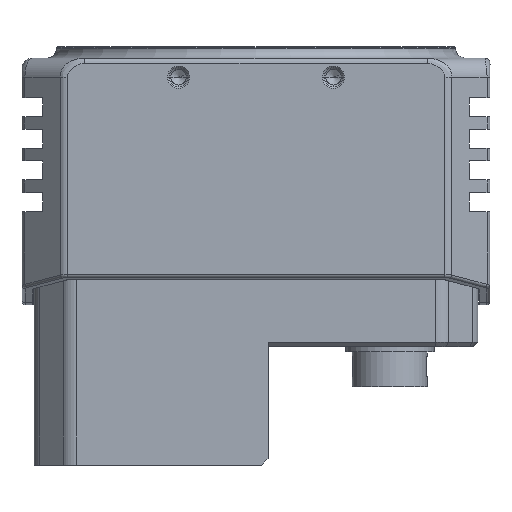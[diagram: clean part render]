
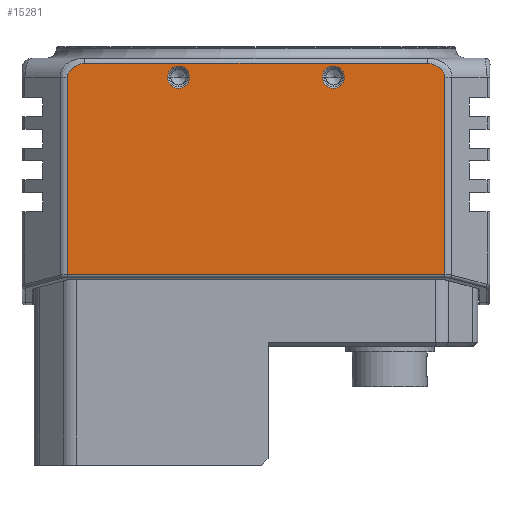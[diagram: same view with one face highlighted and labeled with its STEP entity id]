
A CAD part, left-side view. The second image highlights one B-rep face of the part: STEP entity #15281.
In plain terms, the highlighted planar face has unit normal (-1, 0, 0).
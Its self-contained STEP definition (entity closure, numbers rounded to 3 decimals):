
#1610=DIRECTION('',(0.,-1.,0.));
#1611=VECTOR('',#1610,59.675);
#1612=CARTESIAN_POINT('',(-37.,29.837,
-22.695));
#1613=LINE('',#1612,#1611);
#1884=DIRECTION('',(0.,0.,1.));
#1885=VECTOR('',#1884,31.195);
#1886=CARTESIAN_POINT('',(-37.,-29.837,
-22.695));
#1887=LINE('',#1886,#1885);
#1892=CARTESIAN_POINT('',(-37.,29.837,8.5));
#1893=CARTESIAN_POINT('',(-37.,29.851,8.567));
#1894=CARTESIAN_POINT('',(-37.,29.837,8.734));
#1895=CARTESIAN_POINT('',(-37.,29.689,9.13));
#1896=CARTESIAN_POINT('',(-37.,29.437,9.527));
#1897=CARTESIAN_POINT('',(-37.,29.224,9.736));
#1898=CARTESIAN_POINT('',(-37.,28.791,10.113));
#1899=CARTESIAN_POINT('',(-37.,28.221,10.438));
#1900=CARTESIAN_POINT('',(-37.,27.625,10.651));
#1901=CARTESIAN_POINT('',(-37.,27.245,10.699));
#1902=CARTESIAN_POINT('',(-37.,27.059,10.7));
#1904=CARTESIAN_POINT('',(-37.,-27.063,
10.702));
#1905=CARTESIAN_POINT('',(-37.,-27.27,
10.695));
#1906=CARTESIAN_POINT('',(-37.,-27.686,
10.636));
#1907=CARTESIAN_POINT('',(-37.,-28.251,
10.423));
#1908=CARTESIAN_POINT('',(-37.,-28.829,
10.086));
#1909=CARTESIAN_POINT('',(-37.,-29.257,
9.704));
#1910=CARTESIAN_POINT('',(-37.,-29.45,
9.507));
#1911=CARTESIAN_POINT('',(-37.,-29.674,
9.157));
#1912=CARTESIAN_POINT('',(-37.,-29.836,
8.748));
#1913=CARTESIAN_POINT('',(-37.,-29.85,
8.574));
#1914=CARTESIAN_POINT('',(-37.,-29.837,
8.5));
#1916=CARTESIAN_POINT('',(-37.,12.25,8.5));
#1917=DIRECTION('',(-1.,0.,0.));
#1918=DIRECTION('',(0.,-1.,0.));
#1919=AXIS2_PLACEMENT_3D('',#1916,#1917,#1918);
#1921=CARTESIAN_POINT('',(-37.,12.25,8.5));
#1922=DIRECTION('',(-1.,0.,0.));
#1923=DIRECTION('',(0.,0.,1.));
#1924=AXIS2_PLACEMENT_3D('',#1921,#1922,#1923);
#1926=CARTESIAN_POINT('',(-37.,12.25,8.5));
#1927=DIRECTION('',(-1.,0.,0.));
#1928=DIRECTION('',(0.,1.,0.));
#1929=AXIS2_PLACEMENT_3D('',#1926,#1927,#1928);
#1931=CARTESIAN_POINT('',(-37.,12.25,8.5));
#1932=DIRECTION('',(-1.,0.,0.));
#1933=DIRECTION('',(0.,0.,-1.));
#1934=AXIS2_PLACEMENT_3D('',#1931,#1932,#1933);
#1936=CARTESIAN_POINT('',(-37.,-12.25,8.5));
#1937=DIRECTION('',(-1.,0.,0.));
#1938=DIRECTION('',(0.,-1.,0.));
#1939=AXIS2_PLACEMENT_3D('',#1936,#1937,#1938);
#1941=CARTESIAN_POINT('',(-37.,-12.25,8.5));
#1942=DIRECTION('',(-1.,0.,0.));
#1943=DIRECTION('',(0.,0.,1.));
#1944=AXIS2_PLACEMENT_3D('',#1941,#1942,#1943);
#1946=CARTESIAN_POINT('',(-37.,-12.25,8.5));
#1947=DIRECTION('',(-1.,0.,0.));
#1948=DIRECTION('',(0.,1.,0.));
#1949=AXIS2_PLACEMENT_3D('',#1946,#1947,#1948);
#1951=CARTESIAN_POINT('',(-37.,-12.25,8.5));
#1952=DIRECTION('',(-1.,0.,0.));
#1953=DIRECTION('',(0.,0.,-1.));
#1954=AXIS2_PLACEMENT_3D('',#1951,#1952,#1953);
#1960=DIRECTION('',(0.,0.,-1.));
#1961=VECTOR('',#1960,31.195);
#1962=CARTESIAN_POINT('',(-37.,29.837,8.5));
#1963=LINE('',#1962,#1961);
#3016=CARTESIAN_POINT('',(-37.,-27.063,
10.702));
#3018=CARTESIAN_POINT('',(-37.,-27.059,10.703));
#3019=CARTESIAN_POINT('',(-37.,-26.823,10.707));
#3020=CARTESIAN_POINT('',(-37.,-26.276,10.696));
#3021=CARTESIAN_POINT('',(-37.,-25.398,10.701));
#3022=CARTESIAN_POINT('',(-37.,-24.39,10.7));
#3023=CARTESIAN_POINT('',(-37.,-23.281,10.7));
#3024=CARTESIAN_POINT('',(-37.,-22.04,10.7));
#3025=CARTESIAN_POINT('',(-37.,-20.651,10.7));
#3026=CARTESIAN_POINT('',(-37.,-19.11,10.7));
#3027=CARTESIAN_POINT('',(-37.,-17.41,10.7));
#3028=CARTESIAN_POINT('',(-37.,-15.533,10.7));
#3029=CARTESIAN_POINT('',(-37.,-13.45,10.7));
#3030=CARTESIAN_POINT('',(-37.,-11.124,10.7));
#3031=CARTESIAN_POINT('',(-37.,-8.51,10.7));
#3032=CARTESIAN_POINT('',(-37.,-5.589,10.7));
#3033=CARTESIAN_POINT('',(-37.,-2.449,10.7));
#3034=CARTESIAN_POINT('',(-37.,0.73,10.7));
#3035=CARTESIAN_POINT('',(-37.,3.764,10.7));
#3036=CARTESIAN_POINT('',(-37.,6.579,10.7));
#3037=CARTESIAN_POINT('',(-37.,9.175,10.7));
#3038=CARTESIAN_POINT('',(-37.,11.57,10.7));
#3039=CARTESIAN_POINT('',(-37.,13.774,10.7));
#3040=CARTESIAN_POINT('',(-37.,15.796,10.7));
#3041=CARTESIAN_POINT('',(-37.,17.647,10.7));
#3042=CARTESIAN_POINT('',(-37.,19.338,10.7));
#3043=CARTESIAN_POINT('',(-37.,20.875,10.7));
#3044=CARTESIAN_POINT('',(-37.,22.26,10.7));
#3045=CARTESIAN_POINT('',(-37.,23.497,10.7));
#3046=CARTESIAN_POINT('',(-37.,24.606,10.7));
#3047=CARTESIAN_POINT('',(-37.,25.619,10.701));
#3048=CARTESIAN_POINT('',(-37.,26.425,10.698));
#3049=CARTESIAN_POINT('',(-37.,26.899,10.702));
#3050=CARTESIAN_POINT('',(-37.,27.057,10.701));
#3069=CARTESIAN_POINT('',(-37.,27.059,10.7));
#11740=CARTESIAN_POINT('',(-37.,-29.837,-22.695));
#11741=VERTEX_POINT('',#11740);
#11742=CARTESIAN_POINT('',(-37.,29.837,-22.695));
#11743=VERTEX_POINT('',#11742);
#11744=CARTESIAN_POINT('',(-37.,29.837,
8.5));
#11745=VERTEX_POINT('',#11744);
#11746=VERTEX_POINT('',#3069);
#11747=VERTEX_POINT('',#3016);
#11749=CARTESIAN_POINT('',(-37.,-29.837,
8.5));
#11750=VERTEX_POINT('',#11749);
#11855=CARTESIAN_POINT('',(-37.,12.25,10.25));
#11856=CARTESIAN_POINT('',(-37.,14.,8.5));
#11857=VERTEX_POINT('',#11855);
#11858=VERTEX_POINT('',#11856);
#11859=CARTESIAN_POINT('',(-37.,10.5,8.5));
#11860=VERTEX_POINT('',#11859);
#11861=CARTESIAN_POINT('',(-37.,12.25,6.75));
#11862=VERTEX_POINT('',#11861);
#11863=CARTESIAN_POINT('',(-37.,-12.25,10.25));
#11864=CARTESIAN_POINT('',(-37.,-10.5,8.5));
#11865=VERTEX_POINT('',#11863);
#11866=VERTEX_POINT('',#11864);
#11867=CARTESIAN_POINT('',(-37.,-14.,8.5));
#11868=VERTEX_POINT('',#11867);
#11869=CARTESIAN_POINT('',(-37.,-12.25,6.75));
#11870=VERTEX_POINT('',#11869);
#15244=CARTESIAN_POINT('',(-37.,0.,-5.997));
#15245=DIRECTION('',(1.,0.,0.));
#15246=DIRECTION('',(0.,-1.,0.));
#15247=AXIS2_PLACEMENT_3D('',#15244,#15245,#15246);
#15248=PLANE('',#15247);
#15249=ORIENTED_EDGE('',*,*,#14838,.F.);
#15251=ORIENTED_EDGE('',*,*,#15250,.F.);
#15253=ORIENTED_EDGE('',*,*,#15252,.T.);
#15255=ORIENTED_EDGE('',*,*,#15254,.F.);
#15257=ORIENTED_EDGE('',*,*,#15256,.T.);
#15258=ORIENTED_EDGE('',*,*,#15236,.F.);
#15259=EDGE_LOOP('',(#15249,#15251,#15253,#15255,#15257,#15258));
#15260=FACE_OUTER_BOUND('',#15259,.F.);
#15262=ORIENTED_EDGE('',*,*,#15261,.T.);
#15264=ORIENTED_EDGE('',*,*,#15263,.T.);
#15266=ORIENTED_EDGE('',*,*,#15265,.T.);
#15268=ORIENTED_EDGE('',*,*,#15267,.T.);
#15269=EDGE_LOOP('',(#15262,#15264,#15266,#15268));
#15270=FACE_BOUND('',#15269,.F.);
#15272=ORIENTED_EDGE('',*,*,#15271,.T.);
#15274=ORIENTED_EDGE('',*,*,#15273,.T.);
#15276=ORIENTED_EDGE('',*,*,#15275,.T.);
#15278=ORIENTED_EDGE('',*,*,#15277,.T.);
#15279=EDGE_LOOP('',(#15272,#15274,#15276,#15278));
#15280=FACE_BOUND('',#15279,.F.);
#15281=ADVANCED_FACE('',(#15260,#15270,#15280),#15248,.F.);
#1903=B_SPLINE_CURVE_WITH_KNOTS('',3,(#1892,#1893,#1894,#1895,#1896,#1897,#1898,
#1899,#1900,#1901,#1902),.UNSPECIFIED.,.F.,.F.,(4,1,1,1,1,1,1,1,4),(0.,
0.125,0.25,0.375,0.5,0.625,0.75,0.875,1.),.UNSPECIFIED.);
#1915=B_SPLINE_CURVE_WITH_KNOTS('',3,(#1904,#1905,#1906,#1907,#1908,#1909,#1910,
#1911,#1912,#1913,#1914),.UNSPECIFIED.,.F.,.F.,(4,1,1,1,1,1,1,1,4),(0.,
0.125,0.25,0.375,0.5,0.625,0.75,0.875,1.),.UNSPECIFIED.);
#1920=CIRCLE('',#1919,1.75);
#1925=CIRCLE('',#1924,1.75);
#1930=CIRCLE('',#1929,1.75);
#1935=CIRCLE('',#1934,1.75);
#1940=CIRCLE('',#1939,1.75);
#1945=CIRCLE('',#1944,1.75);
#1950=CIRCLE('',#1949,1.75);
#1955=CIRCLE('',#1954,1.75);
#3051=B_SPLINE_CURVE_WITH_KNOTS('',3,(#3018,#3019,#3020,#3021,#3022,#3023,#3024,
#3025,#3026,#3027,#3028,#3029,#3030,#3031,#3032,#3033,#3034,#3035,#3036,#3037,
#3038,#3039,#3040,#3041,#3042,#3043,#3044,#3045,#3046,#3047,#3048,#3049,#3050),
.UNSPECIFIED.,.F.,.F.,(4,1,1,1,1,1,1,1,1,1,1,1,1,1,1,1,1,1,1,1,1,1,1,1,1,1,1,1,
1,1,4),(0.,0.013,0.03,0.049,
0.069,0.092,0.117,0.146,
0.177,0.212,0.25,0.293,
0.341,0.395,0.455,0.515,
0.571,0.623,0.671,0.715,
0.756,0.793,0.827,0.858,
0.887,0.912,0.935,0.955,
0.974,0.991,1.),.UNSPECIFIED.);
#14838=EDGE_CURVE('',#11743,#11741,#1613,.T.);
#15236=EDGE_CURVE('',#11741,#11750,#1887,.T.);
#15250=EDGE_CURVE('',#11745,#11743,#1963,.T.);
#15252=EDGE_CURVE('',#11745,#11746,#1903,.T.);
#15254=EDGE_CURVE('',#11747,#11746,#3051,.T.);
#15256=EDGE_CURVE('',#11747,#11750,#1915,.T.);
#15261=EDGE_CURVE('',#11860,#11857,#1920,.T.);
#15263=EDGE_CURVE('',#11857,#11858,#1925,.T.);
#15265=EDGE_CURVE('',#11858,#11862,#1930,.T.);
#15267=EDGE_CURVE('',#11862,#11860,#1935,.T.);
#15271=EDGE_CURVE('',#11868,#11865,#1940,.T.);
#15273=EDGE_CURVE('',#11865,#11866,#1945,.T.);
#15275=EDGE_CURVE('',#11866,#11870,#1950,.T.);
#15277=EDGE_CURVE('',#11870,#11868,#1955,.T.);
